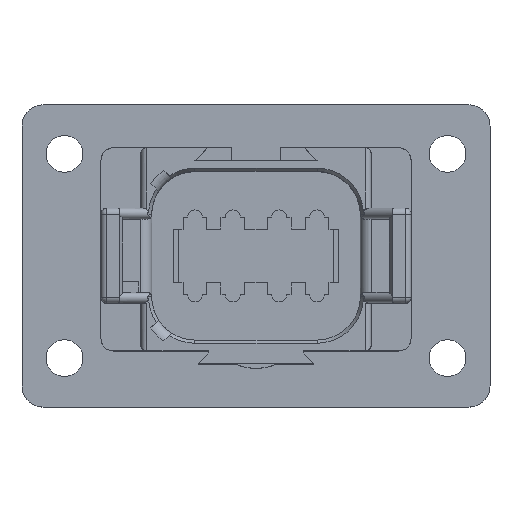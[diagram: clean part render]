
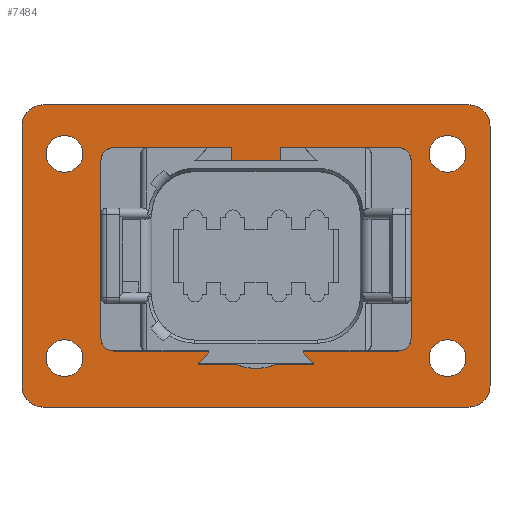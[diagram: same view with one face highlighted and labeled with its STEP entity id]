
A CAD part, top view. The second image highlights one B-rep face of the part: STEP entity #7484.
In plain terms, the highlighted planar face has unit normal (0, 0, 1).
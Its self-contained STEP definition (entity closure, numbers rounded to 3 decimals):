
#718=CARTESIAN_POINT('',(-12.826,12.,-21.666));
#719=DIRECTION('',(0.,0.,-1.));
#720=DIRECTION('',(-1.,0.,0.));
#721=AXIS2_PLACEMENT_3D('',#718,#719,#720);
#750=CARTESIAN_POINT('',(22.505,-12.002,-21.666));
#751=DIRECTION('',(0.,0.,1.));
#752=DIRECTION('',(1.,0.,0.));
#753=AXIS2_PLACEMENT_3D('',#750,#751,#752);
#758=CARTESIAN_POINT('',(22.505,-12.002,-21.666));
#759=DIRECTION('',(0.,0.,1.));
#760=DIRECTION('',(-1.,0.,0.));
#761=AXIS2_PLACEMENT_3D('',#758,#759,#760);
#766=CARTESIAN_POINT('',(-22.505,-12.002,-21.666));
#767=DIRECTION('',(0.,0.,1.));
#768=DIRECTION('',(1.,0.,0.));
#769=AXIS2_PLACEMENT_3D('',#766,#767,#768);
#774=CARTESIAN_POINT('',(-22.505,-12.002,-21.666));
#775=DIRECTION('',(0.,0.,1.));
#776=DIRECTION('',(-1.,0.,0.));
#777=AXIS2_PLACEMENT_3D('',#774,#775,#776);
#782=CARTESIAN_POINT('',(-22.505,12.002,-21.666));
#783=DIRECTION('',(0.,0.,1.));
#784=DIRECTION('',(1.,0.,0.));
#785=AXIS2_PLACEMENT_3D('',#782,#783,#784);
#790=CARTESIAN_POINT('',(-22.505,12.002,-21.666));
#791=DIRECTION('',(0.,0.,1.));
#792=DIRECTION('',(-1.,0.,0.));
#793=AXIS2_PLACEMENT_3D('',#790,#791,#792);
#798=CARTESIAN_POINT('',(22.505,12.002,-21.666));
#799=DIRECTION('',(0.,0.,1.));
#800=DIRECTION('',(1.,0.,0.));
#801=AXIS2_PLACEMENT_3D('',#798,#799,#800);
#806=CARTESIAN_POINT('',(22.505,12.002,-21.666));
#807=DIRECTION('',(0.,0.,1.));
#808=DIRECTION('',(-1.,0.,0.));
#809=AXIS2_PLACEMENT_3D('',#806,#807,#808);
#814=DIRECTION('',(0.,-1.,0.));
#815=VECTOR('',#814,30.531);
#816=CARTESIAN_POINT('',(27.496,15.266,-21.666));
#817=LINE('',#816,#815);
#821=CARTESIAN_POINT('',(25.007,-15.266,-21.666));
#822=DIRECTION('',(0.,0.,-1.));
#823=DIRECTION('',(1.,0.,0.));
#824=AXIS2_PLACEMENT_3D('',#821,#822,#823);
#829=DIRECTION('',(-1.,0.,0.));
#830=VECTOR('',#829,50.013);
#831=CARTESIAN_POINT('',(25.007,-17.755,-21.666));
#832=LINE('',#831,#830);
#836=CARTESIAN_POINT('',(-25.007,-15.266,-21.666));
#837=DIRECTION('',(0.,0.,-1.));
#838=DIRECTION('',(0.,-1.,0.));
#839=AXIS2_PLACEMENT_3D('',#836,#837,#838);
#844=DIRECTION('',(0.,1.,0.));
#845=VECTOR('',#844,30.531);
#846=CARTESIAN_POINT('',(-27.496,-15.266,-21.666));
#847=LINE('',#846,#845);
#851=CARTESIAN_POINT('',(-25.007,15.266,-21.666));
#852=DIRECTION('',(0.,0.,-1.));
#853=DIRECTION('',(-1.,0.,0.));
#854=AXIS2_PLACEMENT_3D('',#851,#852,#853);
#859=DIRECTION('',(1.,0.,0.));
#860=VECTOR('',#859,50.013);
#861=CARTESIAN_POINT('',(-25.007,17.755,-21.666));
#862=LINE('',#861,#860);
#866=CARTESIAN_POINT('',(25.007,15.266,-21.666));
#867=DIRECTION('',(0.,0.,-1.));
#868=DIRECTION('',(0.,1.,0.));
#869=AXIS2_PLACEMENT_3D('',#866,#867,#868);
#2578=DIRECTION('',(-1.,0.,0.));
#2579=VECTOR('',#2578,5.842);
#2580=CARTESIAN_POINT('',(2.921,10.668,-21.666));
#2581=LINE('',#2580,#2579);
#2606=DIRECTION('',(0.,1.,0.));
#2607=VECTOR('',#2606,1.979);
#2608=CARTESIAN_POINT('',(2.921,10.668,-21.666));
#2609=LINE('',#2608,#2607);
#2628=DIRECTION('',(-1.,0.,0.));
#2629=VECTOR('',#2628,9.905);
#2630=CARTESIAN_POINT('',(12.826,12.647,-21.666));
#2631=LINE('',#2630,#2629);
#2635=CARTESIAN_POINT('',(12.826,12.,-21.666));
#2636=DIRECTION('',(0.,0.,-1.));
#2637=DIRECTION('',(0.,1.,0.));
#2638=AXIS2_PLACEMENT_3D('',#2635,#2636,#2637);
#2667=DIRECTION('',(0.,-1.,0.));
#2668=VECTOR('',#2667,22.476);
#2669=CARTESIAN_POINT('',(13.472,12.,-21.666));
#2670=LINE('',#2669,#2668);
#2674=CARTESIAN_POINT('',(12.826,-10.476,-21.666));
#2675=DIRECTION('',(0.,0.,-1.));
#2676=DIRECTION('',(1.,0.,0.));
#2677=AXIS2_PLACEMENT_3D('',#2674,#2675,#2676);
#2706=DIRECTION('',(-1.,0.,0.));
#2707=VECTOR('',#2706,25.651);
#2708=CARTESIAN_POINT('',(12.826,-11.123,-21.666));
#2709=LINE('',#2708,#2707);
#2713=CARTESIAN_POINT('',(-12.826,-10.476,-21.666));
#2714=DIRECTION('',(0.,0.,-1.));
#2715=DIRECTION('',(0.,-1.,0.));
#2716=AXIS2_PLACEMENT_3D('',#2713,#2714,#2715);
#2745=DIRECTION('',(0.,1.,0.));
#2746=VECTOR('',#2745,22.476);
#2747=CARTESIAN_POINT('',(-13.472,-10.476,-21.666));
#2748=LINE('',#2747,#2746);
#2951=DIRECTION('',(-1.,0.,0.));
#2952=VECTOR('',#2951,9.905);
#2953=CARTESIAN_POINT('',(-2.921,12.647,-21.666));
#2954=LINE('',#2953,#2952);
#2958=DIRECTION('',(0.,1.,0.));
#2959=VECTOR('',#2958,1.979);
#2960=CARTESIAN_POINT('',(-2.921,10.668,-21.666));
#2961=LINE('',#2960,#2959);
#6686=CARTESIAN_POINT('',(24.664,-12.002,-21.666));
#6687=CARTESIAN_POINT('',(20.346,-12.002,-21.666));
#6688=VERTEX_POINT('',#6686);
#6689=VERTEX_POINT('',#6687);
#6690=CARTESIAN_POINT('',(27.496,15.266,-21.666));
#6691=CARTESIAN_POINT('',(27.496,-15.266,-21.666));
#6692=VERTEX_POINT('',#6690);
#6693=VERTEX_POINT('',#6691);
#6694=CARTESIAN_POINT('',(25.007,-17.755,-21.666));
#6695=VERTEX_POINT('',#6694);
#6696=CARTESIAN_POINT('',(-25.007,-17.755,-21.666));
#6697=VERTEX_POINT('',#6696);
#6698=CARTESIAN_POINT('',(-27.496,-15.266,-21.666));
#6699=VERTEX_POINT('',#6698);
#6700=CARTESIAN_POINT('',(-27.496,15.266,-21.666));
#6701=VERTEX_POINT('',#6700);
#6702=CARTESIAN_POINT('',(-25.007,17.755,-21.666));
#6703=VERTEX_POINT('',#6702);
#6704=CARTESIAN_POINT('',(25.007,17.755,-21.666));
#6705=VERTEX_POINT('',#6704);
#6726=CARTESIAN_POINT('',(2.921,10.668,-21.666));
#6727=CARTESIAN_POINT('',(-2.921,10.668,-21.666));
#6728=VERTEX_POINT('',#6726);
#6729=VERTEX_POINT('',#6727);
#6730=CARTESIAN_POINT('',(-2.921,12.647,-21.666));
#6731=VERTEX_POINT('',#6730);
#6732=CARTESIAN_POINT('',(2.921,12.647,-21.666));
#6733=VERTEX_POINT('',#6732);
#6854=CARTESIAN_POINT('',(-13.472,-10.476,-21.666));
#6855=CARTESIAN_POINT('',(-13.472,12.,-21.666));
#6856=VERTEX_POINT('',#6854);
#6857=VERTEX_POINT('',#6855);
#6858=CARTESIAN_POINT('',(13.472,12.,-21.666));
#6859=CARTESIAN_POINT('',(13.472,-10.476,-21.666));
#6860=VERTEX_POINT('',#6858);
#6861=VERTEX_POINT('',#6859);
#6862=CARTESIAN_POINT('',(12.826,-11.123,-21.666));
#6863=CARTESIAN_POINT('',(-12.826,-11.123,-21.666));
#6864=VERTEX_POINT('',#6862);
#6865=VERTEX_POINT('',#6863);
#6866=CARTESIAN_POINT('',(-12.826,12.647,-21.666));
#6867=VERTEX_POINT('',#6866);
#6868=CARTESIAN_POINT('',(12.826,12.647,-21.666));
#6869=VERTEX_POINT('',#6868);
#6870=CARTESIAN_POINT('',(-20.346,-12.002,-21.666));
#6871=CARTESIAN_POINT('',(-24.664,-12.002,-21.666));
#6872=VERTEX_POINT('',#6870);
#6873=VERTEX_POINT('',#6871);
#6874=CARTESIAN_POINT('',(-20.346,12.002,-21.666));
#6875=CARTESIAN_POINT('',(-24.664,12.002,-21.666));
#6876=VERTEX_POINT('',#6874);
#6877=VERTEX_POINT('',#6875);
#6878=CARTESIAN_POINT('',(24.664,12.002,-21.666));
#6879=CARTESIAN_POINT('',(20.346,12.002,-21.666));
#6880=VERTEX_POINT('',#6878);
#6881=VERTEX_POINT('',#6879);
#7412=CARTESIAN_POINT('',(0.,0.,-21.666));
#7413=DIRECTION('',(0.,0.,-1.));
#7414=DIRECTION('',(1.,0.,0.));
#7415=AXIS2_PLACEMENT_3D('',#7412,#7413,#7414);
#7416=PLANE('',#7415);
#7418=ORIENTED_EDGE('',*,*,#7417,.T.);
#7420=ORIENTED_EDGE('',*,*,#7419,.T.);
#7422=ORIENTED_EDGE('',*,*,#7421,.T.);
#7424=ORIENTED_EDGE('',*,*,#7423,.T.);
#7426=ORIENTED_EDGE('',*,*,#7425,.T.);
#7428=ORIENTED_EDGE('',*,*,#7427,.T.);
#7430=ORIENTED_EDGE('',*,*,#7429,.T.);
#7432=ORIENTED_EDGE('',*,*,#7431,.T.);
#7433=EDGE_LOOP('',(#7418,#7420,#7422,#7424,#7426,#7428,#7430,#7432));
#7434=FACE_OUTER_BOUND('',#7433,.F.);
#7436=ORIENTED_EDGE('',*,*,#7435,.T.);
#7438=ORIENTED_EDGE('',*,*,#7437,.T.);
#7439=EDGE_LOOP('',(#7436,#7438));
#7440=FACE_BOUND('',#7439,.F.);
#7442=ORIENTED_EDGE('',*,*,#7441,.T.);
#7444=ORIENTED_EDGE('',*,*,#7443,.T.);
#7445=EDGE_LOOP('',(#7442,#7444));
#7446=FACE_BOUND('',#7445,.F.);
#7448=ORIENTED_EDGE('',*,*,#7447,.T.);
#7450=ORIENTED_EDGE('',*,*,#7449,.T.);
#7451=EDGE_LOOP('',(#7448,#7450));
#7452=FACE_BOUND('',#7451,.F.);
#7454=ORIENTED_EDGE('',*,*,#7453,.T.);
#7456=ORIENTED_EDGE('',*,*,#7455,.T.);
#7457=EDGE_LOOP('',(#7454,#7456));
#7458=FACE_BOUND('',#7457,.F.);
#7460=ORIENTED_EDGE('',*,*,#7459,.T.);
#7462=ORIENTED_EDGE('',*,*,#7461,.T.);
#7464=ORIENTED_EDGE('',*,*,#7463,.T.);
#7465=ORIENTED_EDGE('',*,*,#7402,.F.);
#7467=ORIENTED_EDGE('',*,*,#7466,.F.);
#7469=ORIENTED_EDGE('',*,*,#7468,.F.);
#7471=ORIENTED_EDGE('',*,*,#7470,.F.);
#7473=ORIENTED_EDGE('',*,*,#7472,.F.);
#7475=ORIENTED_EDGE('',*,*,#7474,.F.);
#7477=ORIENTED_EDGE('',*,*,#7476,.F.);
#7479=ORIENTED_EDGE('',*,*,#7478,.T.);
#7481=ORIENTED_EDGE('',*,*,#7480,.F.);
#7482=EDGE_LOOP('',(#7460,#7462,#7464,#7465,#7467,#7469,#7471,#7473,#7475,#7477,
#7479,#7481));
#7483=FACE_BOUND('',#7482,.F.);
#7484=ADVANCED_FACE('',(#7434,#7440,#7446,#7452,#7458,#7483),#7416,.F.);
#722=CIRCLE('',#721,0.647);
#754=CIRCLE('',#753,2.159);
#762=CIRCLE('',#761,2.159);
#770=CIRCLE('',#769,2.159);
#778=CIRCLE('',#777,2.159);
#786=CIRCLE('',#785,2.159);
#794=CIRCLE('',#793,2.159);
#802=CIRCLE('',#801,2.159);
#810=CIRCLE('',#809,2.159);
#825=CIRCLE('',#824,2.489);
#840=CIRCLE('',#839,2.489);
#855=CIRCLE('',#854,2.489);
#870=CIRCLE('',#869,2.489);
#2639=CIRCLE('',#2638,0.647);
#2678=CIRCLE('',#2677,0.647);
#2717=CIRCLE('',#2716,0.647);
#7402=EDGE_CURVE('',#6857,#6867,#722,.T.);
#7417=EDGE_CURVE('',#6692,#6693,#817,.T.);
#7419=EDGE_CURVE('',#6693,#6695,#825,.T.);
#7421=EDGE_CURVE('',#6695,#6697,#832,.T.);
#7423=EDGE_CURVE('',#6697,#6699,#840,.T.);
#7425=EDGE_CURVE('',#6699,#6701,#847,.T.);
#7427=EDGE_CURVE('',#6701,#6703,#855,.T.);
#7429=EDGE_CURVE('',#6703,#6705,#862,.T.);
#7431=EDGE_CURVE('',#6705,#6692,#870,.T.);
#7435=EDGE_CURVE('',#6688,#6689,#754,.T.);
#7437=EDGE_CURVE('',#6689,#6688,#762,.T.);
#7441=EDGE_CURVE('',#6872,#6873,#770,.T.);
#7443=EDGE_CURVE('',#6873,#6872,#778,.T.);
#7447=EDGE_CURVE('',#6876,#6877,#786,.T.);
#7449=EDGE_CURVE('',#6877,#6876,#794,.T.);
#7453=EDGE_CURVE('',#6880,#6881,#802,.T.);
#7455=EDGE_CURVE('',#6881,#6880,#810,.T.);
#7459=EDGE_CURVE('',#6728,#6729,#2581,.T.);
#7461=EDGE_CURVE('',#6729,#6731,#2961,.T.);
#7463=EDGE_CURVE('',#6731,#6867,#2954,.T.);
#7466=EDGE_CURVE('',#6856,#6857,#2748,.T.);
#7468=EDGE_CURVE('',#6865,#6856,#2717,.T.);
#7470=EDGE_CURVE('',#6864,#6865,#2709,.T.);
#7472=EDGE_CURVE('',#6861,#6864,#2678,.T.);
#7474=EDGE_CURVE('',#6860,#6861,#2670,.T.);
#7476=EDGE_CURVE('',#6869,#6860,#2639,.T.);
#7478=EDGE_CURVE('',#6869,#6733,#2631,.T.);
#7480=EDGE_CURVE('',#6728,#6733,#2609,.T.);
